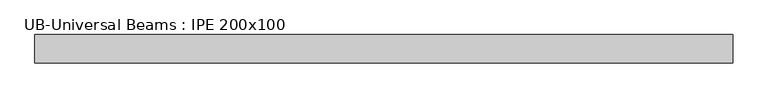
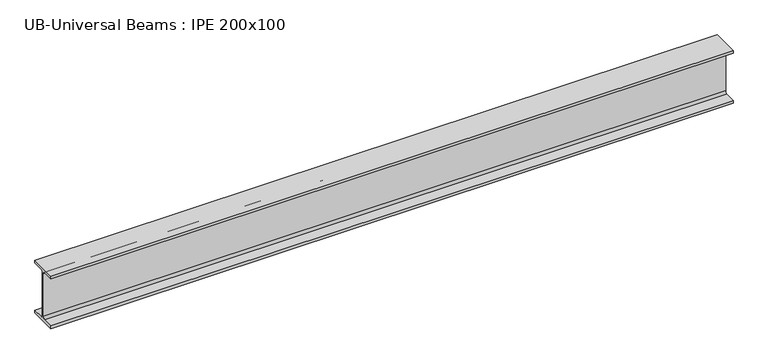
"""IFC4 building model written with IfcOpenShell, lengths in millimetres: beam geometry, UB-Universal Beams : IPE 200x100."""

from ifc_helpers import new_model, si_unit, point, frame, frame_2d, origin, place, context, project, spatial, polyline, circle_curve, trimmed, segment, composite_curve, outline, extrude, source, transform, mapped, element, save


def ub_universal_beams_ipe_200x100_6cde27da(model_context):
    return source(origin(), model_context, "Body", "SweptSolid", [
        extrude(outline(composite_curve([segment(polyline([(-50.0, -89.8), (-11.9, -89.8)]), True, "CONTINUOUS"), segment(trimmed(circle_curve(frame_2d((-11.9, -80.9)), 8.9), [point((-11.9, -89.8))], [point((-3.0, -80.9))], True, "CARTESIAN"), True, "CONTINUOUS"), segment(polyline([(-3.0, -80.9), (-3.0, 80.9)]), True, "CONTINUOUS"), segment(trimmed(circle_curve(frame_2d((-11.9, 80.9)), 8.9), [point((-3.0, 80.9))], [point((-11.9, 89.8))], True, "CARTESIAN"), True, "CONTINUOUS"), segment(polyline([(-11.9, 89.8), (-50.0, 89.8), (-50.0, 100.0), (50.0, 100.0), (50.0, 89.8), (11.9, 89.8)]), True, "CONTINUOUS"), segment(trimmed(circle_curve(frame_2d((11.9, 80.9)), 8.9), [point((11.9, 89.8))], [point((3.0, 80.9))], True, "CARTESIAN"), True, "CONTINUOUS"), segment(polyline([(3.0, 80.9), (3.0, -80.9)]), True, "CONTINUOUS"), segment(trimmed(circle_curve(frame_2d((11.9, -80.9)), 8.9), [point((3.0, -80.9))], [point((11.9, -89.8))], True, "CARTESIAN"), True, "CONTINUOUS"), segment(polyline([(11.9, -89.8), (50.0, -89.8), (50.0, -100.0), (-50.0, -100.0), (-50.0, -89.8)]), True, "CONTINUOUS")], self_intersect=False)), frame((-849.7, 0.0, 0.0), z_axis=(1.0, 0.0, 0.0), x_axis=(0.0, 1.0, 0.0)), (0.0, 0.0, 1.0), 2462.1),
    ])


if __name__ == "__main__":
    model = new_model("IFC4")
    model_context = context("Model", 3, world=origin())
    ifc_project = project(units=[si_unit("LENGTHUNIT", "METRE", prefix="MILLI")], contexts=[model_context])
    site = spatial("IfcSite", under=ifc_project)
    building = spatial("IfcBuilding", under=site)
    placement = place(None, origin())
    ub_universal_beams_ipe_200x100_shape = ub_universal_beams_ipe_200x100_6cde27da(model_context)
    element("IfcBeam", 1, ObjectType="UB-Universal Beams : IPE 200x100", at=placement, inside=building, context=model_context, shape_type="MappedRepresentation", body=[
        mapped(ub_universal_beams_ipe_200x100_shape, transform((0.0, 0.0, 0.0), x_axis=(1.0, 0.0, 0.0), y_axis=(0.0, 1.0, 0.0), z_axis=(0.0, 0.0, 1.0))),
    ])
    save(model, "model.ifc")
